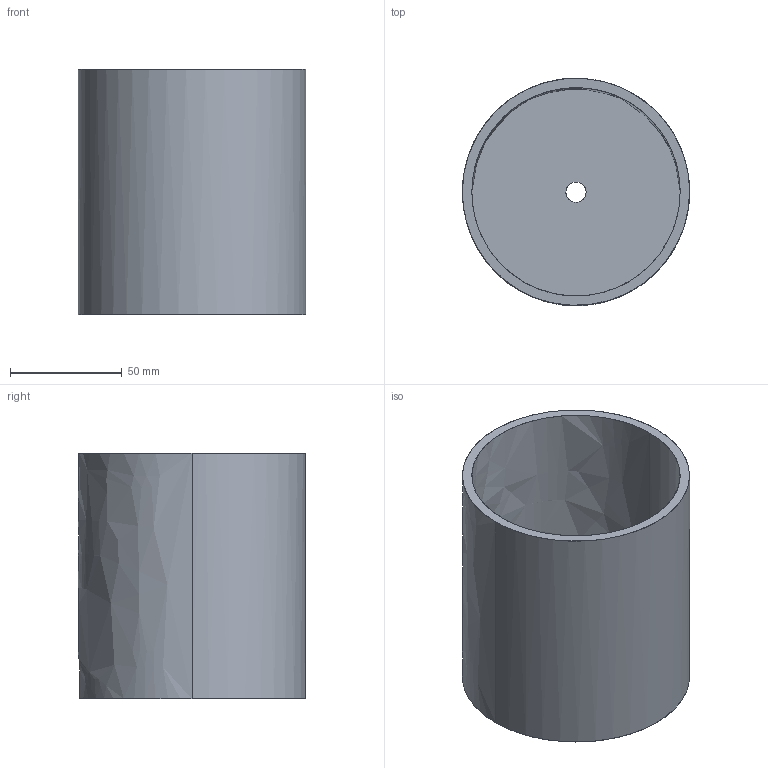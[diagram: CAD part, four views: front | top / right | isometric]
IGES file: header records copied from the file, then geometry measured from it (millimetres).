
Global section: file name: E:\UnigraphicsGraphicData\MISUMI_PRESS-PARTS\IGES\3d_phn70-110-r_07082_r00.igs; native system: NX V5.0; preprocessor: UGS NX IGES V5.0; author: MISUMI; date: 20110105.162250; units: millimetre
Bounding box: 101.6 x 101.6 x 110 mm (x, y, z)
Surface area: 83510.1 mm2 (no closed solid volume)
Topology: 0 solids, 0 shells, 15 faces, 178 edges, 178 vertices
Faces by surface type: bspline 15
